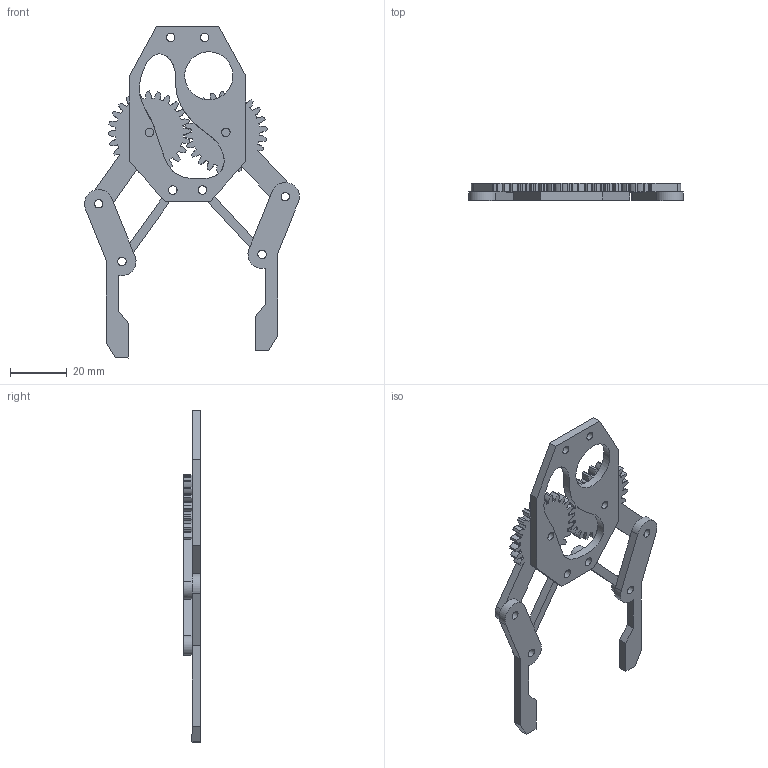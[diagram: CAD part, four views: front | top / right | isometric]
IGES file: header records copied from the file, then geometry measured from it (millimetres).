
Global section: file name: Mechanical gripper v21; native system: unknown; preprocessor: unknown; author: unknown; organization: unknown; date: 20230515.210235; units: millimetre
Bounding box: 75.96 x 6 x 117.36 mm (x, y, z)
Volume: 11722 mm3; surface area: 11919.3 mm2
Topology: 7 solids, 7 shells, 416 faces, 1206 edges, 804 vertices
Faces by surface type: bspline 416
